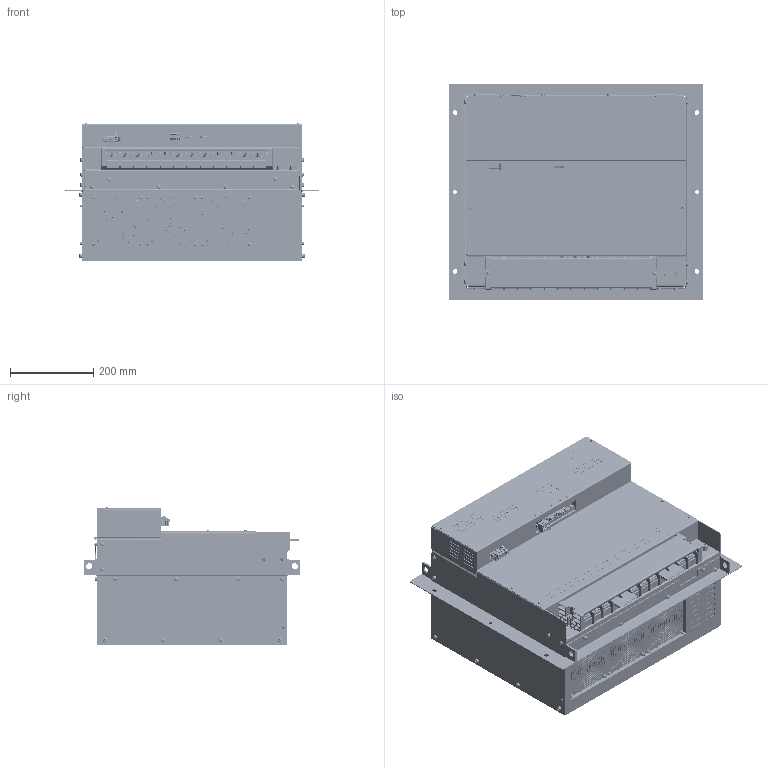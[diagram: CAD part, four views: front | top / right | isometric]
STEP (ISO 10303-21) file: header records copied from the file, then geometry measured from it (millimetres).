
FILE_DESCRIPTION (( 'STEP AP203' ), '1' );
FILE_NAME ('NCR-HC3_753#SE-85910.STEP', '2021-07-08T08:26:27', ( '' ), ( '' ), 'SwSTEP 2.0', 'SolidWorks 2018', '' );
FILE_SCHEMA (( 'CONFIG_CONTROL_DESIGN' ));
Products named in the file (1): NCR-HC3_753#SE-85910
Bounding box: 610 x 520 x 332.95 mm (x, y, z)
Volume: 68522281.8 mm3; surface area: 1952634.6 mm2
Topology: 5 solids, 41 shells, 16882 faces, 45853 edges, 29481 vertices
Faces by surface type: plane 10373, cylinder 2958, bspline 1861, cone 1220, torus 338, sphere 132
Entity records: 596236 total; most frequent: CARTESIAN_POINT 176155, ORIENTED_EDGE 91426, DIRECTION 81694, EDGE_CURVE 45713, VERTEX_POINT 29481, LINE 29174, VECTOR 29174, AXIS2_PLACEMENT_3D 26260
